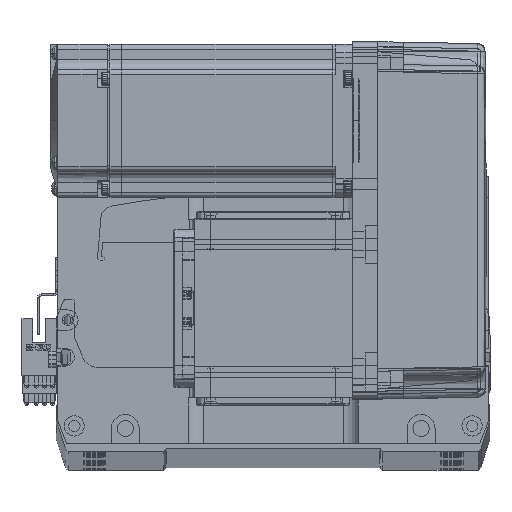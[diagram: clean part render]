
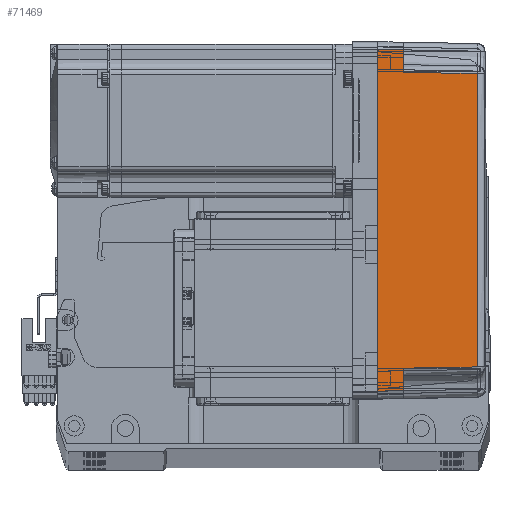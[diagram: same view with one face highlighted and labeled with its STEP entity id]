
A CAD part, top view. The second image highlights one B-rep face of the part: STEP entity #71469.
In plain terms, the highlighted planar face has unit normal (0.018, 0, 1) as drawn and (0, -1, 0.017) by its records, which use the part's own axes.
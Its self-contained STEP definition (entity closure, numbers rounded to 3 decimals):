
#2095 = VERTEX_POINT ( 'NONE', #54925 ) ;
#3117 = EDGE_CURVE ( 'NONE', #59722, #31468, #16013, .T. ) ;
#3227 = DIRECTION ( 'NONE',  ( -0.017, 0.017, 1. ) ) ;
#3283 = VECTOR ( 'NONE', #31149, 1000. ) ;
#4000 = CARTESIAN_POINT ( 'NONE',  ( -57.495, -35.32, 38.985 ) ) ;
#4011 = EDGE_LOOP ( 'NONE', ( #19442, #56205, #68401, #19468, #21957, #23327, #47440, #22368 ) ) ;
#4872 = VECTOR ( 'NONE', #3227, 1000. ) ;
#6691 = VERTEX_POINT ( 'NONE', #44047 ) ;
#7570 = EDGE_CURVE ( 'NONE', #6691, #2095, #47768, .T. ) ;
#7604 = VECTOR ( 'NONE', #31622, 1000. ) ;
#8074 = CARTESIAN_POINT ( 'NONE',  ( -67., -36., 0. ) ) ;
#9860 = PLANE ( 'NONE',  #28521 ) ;
#10099 = VECTOR ( 'NONE', #32935, 1000. ) ;
#11468 = CARTESIAN_POINT ( 'NONE',  ( -57.495, -35.32, 38.985 ) ) ;
#11486 = B_SPLINE_CURVE_WITH_KNOTS ( 'NONE', 3,
 ( #72613, #49369, #27880, #62838 ),
 .UNSPECIFIED., .F., .F.,
 ( 4, 4 ),
 ( 0., 1. ),
 .UNSPECIFIED. ) ;
#13316 = FACE_OUTER_BOUND ( 'NONE', #4011, .T. ) ;
#15341 = VERTEX_POINT ( 'NONE', #49821 ) ;
#16013 = LINE ( 'NONE', #36297, #3283 ) ;
#17041 = VECTOR ( 'NONE', #30551, 1000. ) ;
#17360 = VECTOR ( 'NONE', #58243, 1000. ) ;
#17394 = CARTESIAN_POINT ( 'NONE',  ( 70., -35.825, 10. ) ) ;
#19317 = CARTESIAN_POINT ( 'NONE',  ( 67., -36., 0. ) ) ;
#19442 = ORIENTED_EDGE ( 'NONE', *, *, #39655, .T. ) ;
#19468 = ORIENTED_EDGE ( 'NONE', *, *, #23695, .T. ) ;
#20515 = CARTESIAN_POINT ( 'NONE',  ( 58., -35.825, 10. ) ) ;
#21957 = ORIENTED_EDGE ( 'NONE', *, *, #52375, .T. ) ;
#22368 = ORIENTED_EDGE ( 'NONE', *, *, #3117, .F. ) ;
#22711 = DIRECTION ( 'NONE',  ( -0.017, -0.017, -1. ) ) ;
#23327 = ORIENTED_EDGE ( 'NONE', *, *, #59334, .T. ) ;
#23695 = EDGE_CURVE ( 'NONE', #2095, #62175, #11486, .T. ) ;
#26747 = LINE ( 'NONE', #72955, #7604 ) ;
#27051 = CARTESIAN_POINT ( 'NONE',  ( 70., -35.825, 10. ) ) ;
#27400 = LINE ( 'NONE', #17394, #17360 ) ;
#27880 = CARTESIAN_POINT ( 'NONE',  ( -19.165, -35.316, 39.181 ) ) ;
#28521 = AXIS2_PLACEMENT_3D ( 'NONE', #50186, #62408, #56066 ) ;
#28940 = LINE ( 'NONE', #43025, #17041 ) ;
#30551 = DIRECTION ( 'NONE',  ( 0.017, 0.017, 1. ) ) ;
#31149 = DIRECTION ( 'NONE',  ( -1., 0., 0. ) ) ;
#31468 = VERTEX_POINT ( 'NONE', #8074 ) ;
#31622 = DIRECTION ( 'NONE',  ( -0.017, 0.017, 1. ) ) ;
#31825 = VERTEX_POINT ( 'NONE', #42944 ) ;
#32390 = CARTESIAN_POINT ( 'NONE',  ( 66.826, -35.825, 10. ) ) ;
#32935 = DIRECTION ( 'NONE',  ( -1., 0., 0. ) ) ;
#32959 = LINE ( 'NONE', #27051, #10099 ) ;
#33997 = VERTEX_POINT ( 'NONE', #32390 ) ;
#36297 = CARTESIAN_POINT ( 'NONE',  ( 0., -36., 0. ) ) ;
#39655 = EDGE_CURVE ( 'NONE', #59722, #33997, #26747, .T. ) ;
#40568 = VECTOR ( 'NONE', #22711, 1000. ) ;
#42944 = CARTESIAN_POINT ( 'NONE',  ( -66.826, -35.825, 10. ) ) ;
#43025 = CARTESIAN_POINT ( 'NONE',  ( -66.959, -35.958, 2.39 ) ) ;
#44047 = CARTESIAN_POINT ( 'NONE',  ( 58., -35.825, 10. ) ) ;
#46834 = EDGE_CURVE ( 'NONE', #33997, #6691, #27400, .T. ) ;
#47440 = ORIENTED_EDGE ( 'NONE', *, *, #61856, .F. ) ;
#47768 = LINE ( 'NONE', #20515, #4872 ) ;
#49369 = CARTESIAN_POINT ( 'NONE',  ( 19.165, -35.316, 39.181 ) ) ;
#49821 = CARTESIAN_POINT ( 'NONE',  ( -58., -35.825, 10. ) ) ;
#50186 = CARTESIAN_POINT ( 'NONE',  ( 70., -36., 0. ) ) ;
#52375 = EDGE_CURVE ( 'NONE', #62175, #15341, #62425, .T. ) ;
#54925 = CARTESIAN_POINT ( 'NONE',  ( 57.495, -35.32, 38.985 ) ) ;
#56066 = DIRECTION ( 'NONE',  ( 0., -0.017, -1. ) ) ;
#56205 = ORIENTED_EDGE ( 'NONE', *, *, #46834, .T. ) ;
#58243 = DIRECTION ( 'NONE',  ( -1., 0., 0. ) ) ;
#59334 = EDGE_CURVE ( 'NONE', #15341, #31825, #32959, .T. ) ;
#59722 = VERTEX_POINT ( 'NONE', #19317 ) ;
#61856 = EDGE_CURVE ( 'NONE', #31468, #31825, #28940, .T. ) ;
#62175 = VERTEX_POINT ( 'NONE', #4000 ) ;
#62408 = DIRECTION ( 'NONE',  ( 0., -1., 0.017 ) ) ;
#62425 = LINE ( 'NONE', #11468, #40568 ) ;
#62838 = CARTESIAN_POINT ( 'NONE',  ( -57.495, -35.32, 38.985 ) ) ;
#68401 = ORIENTED_EDGE ( 'NONE', *, *, #7570, .T. ) ;
#71469 = ADVANCED_FACE ( 'NONE', ( #13316 ), #9860, .T. ) ;
#72613 = CARTESIAN_POINT ( 'NONE',  ( 57.495, -35.32, 38.985 ) ) ;
#72955 = CARTESIAN_POINT ( 'NONE',  ( 67., -36., 0. ) ) ;
